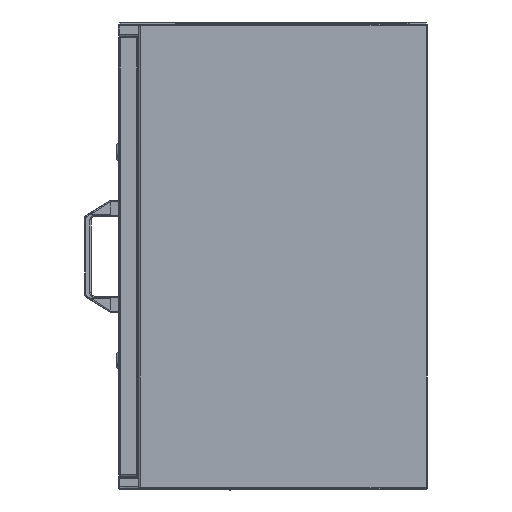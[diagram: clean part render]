
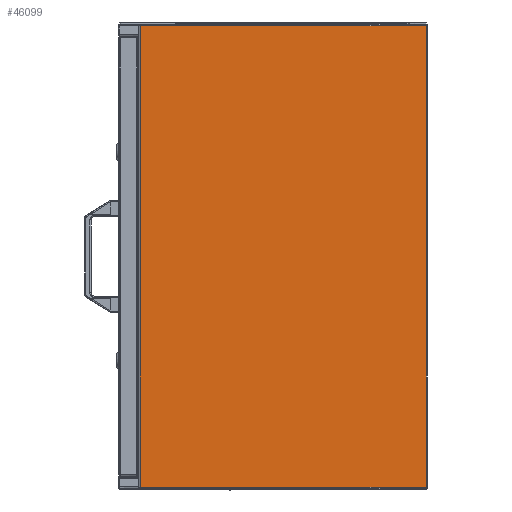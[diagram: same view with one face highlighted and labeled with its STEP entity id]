
A CAD part, left-side view. The second image highlights one B-rep face of the part: STEP entity #46099.
In plain terms, the highlighted planar face has unit normal (-1, 0, 0).
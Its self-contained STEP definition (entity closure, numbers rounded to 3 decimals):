
#6218 = EDGE_CURVE ( 'NONE', #29849, #54116, #33755, .T. ) ;
#6219 = EDGE_CURVE ( 'NONE', #53785, #29859, #33768, .T. ) ;
#6496 = EDGE_CURVE ( 'NONE', #29859, #29849, #34658, .T. ) ;
#6681 = EDGE_CURVE ( 'NONE', #53785, #54116, #8208, .T. ) ;
#8208 = LINE ( 'NONE', #24354, #8583 ) ;
#8583 = VECTOR ( 'NONE', #24897, 1000. ) ;
#14515 = AXIS2_PLACEMENT_3D ( 'NONE', #20592, #20585, #20587 ) ;
#14719 = CARTESIAN_POINT ( 'NONE',  ( -633.5, 433.2, -348.8 ) ) ;
#15469 = CARTESIAN_POINT ( 'NONE',  ( -633.5, 433.2, 348.8 ) ) ;
#20585 = DIRECTION ( 'NONE',  ( 1., 0., 0. ) ) ;
#20587 = DIRECTION ( 'NONE',  ( 0., -1., 0. ) ) ;
#20588 = PLANE ( 'NONE',  #14515 ) ;
#20592 = CARTESIAN_POINT ( 'NONE',  ( -633.5, 0., 0. ) ) ;
#22319 = FACE_OUTER_BOUND ( 'NONE', #40969, .T. ) ;
#24354 = CARTESIAN_POINT ( 'NONE',  ( -633.5, 1.2, 0. ) ) ;
#24551 = DIRECTION ( 'NONE',  ( 0., 0., -1. ) ) ;
#24555 = CARTESIAN_POINT ( 'NONE',  ( -633.5, 433.2, 348.8 ) ) ;
#24897 = DIRECTION ( 'NONE',  ( 0., 0., -1. ) ) ;
#29849 = VERTEX_POINT ( 'NONE', #14719 ) ;
#29859 = VERTEX_POINT ( 'NONE', #15469 ) ;
#32038 = CARTESIAN_POINT ( 'NONE',  ( -633.5, 1.2, 348.8 ) ) ;
#32040 = CARTESIAN_POINT ( 'NONE',  ( -633.5, 434.4, -348.8 ) ) ;
#32044 = DIRECTION ( 'NONE',  ( 0., -1., 0. ) ) ;
#32045 = DIRECTION ( 'NONE',  ( 0., 1., 0. ) ) ;
#33755 = LINE ( 'NONE', #32040, #33873 ) ;
#33768 = LINE ( 'NONE', #32038, #33856 ) ;
#33856 = VECTOR ( 'NONE', #32045, 1000. ) ;
#33873 = VECTOR ( 'NONE', #32044, 1000. ) ;
#34013 = VECTOR ( 'NONE', #24551, 1000. ) ;
#34658 = LINE ( 'NONE', #24555, #34013 ) ;
#34976 = ORIENTED_EDGE ( 'NONE', *, *, #6681, .F. ) ;
#35069 = ORIENTED_EDGE ( 'NONE', *, *, #6219, .T. ) ;
#35255 = ORIENTED_EDGE ( 'NONE', *, *, #6218, .T. ) ;
#35377 = ORIENTED_EDGE ( 'NONE', *, *, #6496, .T. ) ;
#40969 = EDGE_LOOP ( 'NONE', ( #35377, #35255, #34976, #35069 ) ) ;
#44566 = CARTESIAN_POINT ( 'NONE',  ( -633.5, 1.2, -348.8 ) ) ;
#44972 = CARTESIAN_POINT ( 'NONE',  ( -633.5, 1.2, 348.8 ) ) ;
#46099 = ADVANCED_FACE ( 'NONE', ( #22319 ), #20588, .F. ) ;
#53785 = VERTEX_POINT ( 'NONE', #44972 ) ;
#54116 = VERTEX_POINT ( 'NONE', #44566 ) ;
